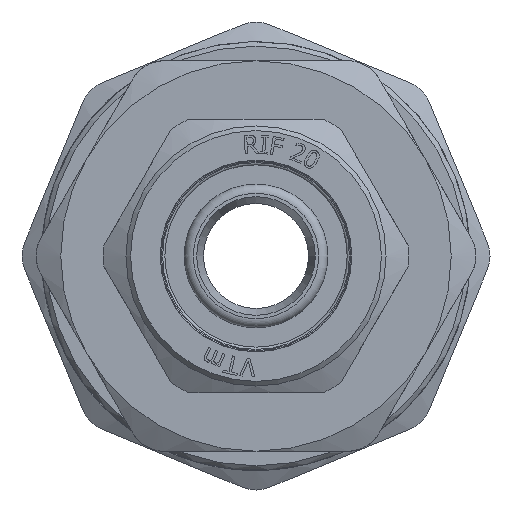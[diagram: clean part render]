
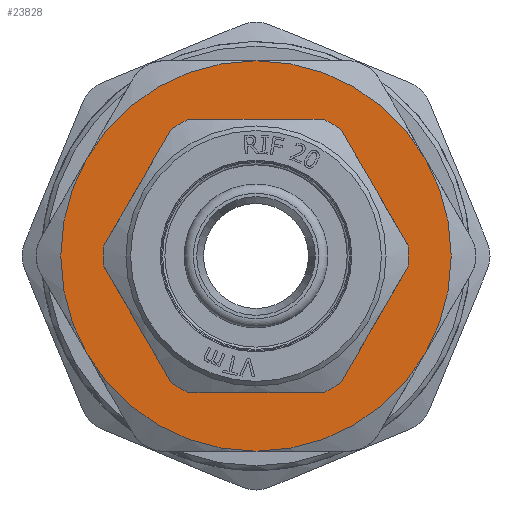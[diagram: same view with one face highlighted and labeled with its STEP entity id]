
A CAD part, left-side view. The second image highlights one B-rep face of the part: STEP entity #23828.
In plain terms, the highlighted planar face has unit normal (-1, 0, 0).
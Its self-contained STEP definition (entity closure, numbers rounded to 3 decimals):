
#479=PLANE('',#24975);
#1303=FACE_BOUND('',#3965,.T.);
#2572=FACE_OUTER_BOUND('',#3964,.T.);
#3964=EDGE_LOOP('',(#22230,#22231,#22232,#22233,#22234,#22235));
#3965=EDGE_LOOP('',(#22236,#22237));
#3989=CIRCLE('',#23872,13.2);
#3990=CIRCLE('',#23873,13.2);
#4046=CIRCLE('',#23971,21.4);
#4047=CIRCLE('',#23973,21.4);
#4048=CIRCLE('',#23975,21.4);
#4049=CIRCLE('',#23977,21.4);
#4050=CIRCLE('',#23979,21.4);
#4541=CIRCLE('',#24976,21.4);
#9052=VERTEX_POINT('',#28850);
#9053=VERTEX_POINT('',#28852);
#9473=VERTEX_POINT('',#32791);
#9481=VERTEX_POINT('',#32839);
#9495=VERTEX_POINT('',#32920);
#9498=VERTEX_POINT('',#32939);
#9506=VERTEX_POINT('',#32987);
#9513=VERTEX_POINT('',#33034);
#11508=EDGE_CURVE('',#9052,#9053,#3989,.T.);
#11509=EDGE_CURVE('',#9053,#9052,#3990,.T.);
#12017=EDGE_CURVE('',#9498,#9495,#4046,.T.);
#12018=EDGE_CURVE('',#9495,#9481,#4047,.T.);
#12019=EDGE_CURVE('',#9506,#9498,#4048,.T.);
#12020=EDGE_CURVE('',#9481,#9473,#4049,.T.);
#12021=EDGE_CURVE('',#9513,#9506,#4050,.T.);
#15101=EDGE_CURVE('',#9473,#9513,#4541,.T.);
#22230=ORIENTED_EDGE('',*,*,#12018,.T.);
#22231=ORIENTED_EDGE('',*,*,#12020,.T.);
#22232=ORIENTED_EDGE('',*,*,#15101,.T.);
#22233=ORIENTED_EDGE('',*,*,#12021,.T.);
#22234=ORIENTED_EDGE('',*,*,#12019,.T.);
#22235=ORIENTED_EDGE('',*,*,#12017,.T.);
#22236=ORIENTED_EDGE('',*,*,#11509,.F.);
#22237=ORIENTED_EDGE('',*,*,#11508,.F.);
#23828=ADVANCED_FACE('',(#2572,#1303),#479,.T.);
#23872=AXIS2_PLACEMENT_3D('',#28853,#25028,#25029);
#23873=AXIS2_PLACEMENT_3D('',#28854,#25030,#25031);
#23971=AXIS2_PLACEMENT_3D('',#33052,#25290,#25291);
#23973=AXIS2_PLACEMENT_3D('',#33054,#25294,#25295);
#23975=AXIS2_PLACEMENT_3D('',#33056,#25298,#25299);
#23977=AXIS2_PLACEMENT_3D('',#33058,#25302,#25303);
#23979=AXIS2_PLACEMENT_3D('',#33060,#25306,#25307);
#24975=AXIS2_PLACEMENT_3D('',#54728,#28698,#28699);
#24976=AXIS2_PLACEMENT_3D('',#54729,#28700,#28701);
#25028=DIRECTION('center_axis',(-1.,0.,0.));
#25029=DIRECTION('ref_axis',(0.,0.,1.));
#25030=DIRECTION('center_axis',(-1.,0.,0.));
#25031=DIRECTION('ref_axis',(0.,0.,1.));
#25290=DIRECTION('center_axis',(-1.,0.,0.));
#25291=DIRECTION('ref_axis',(0.,0.,1.));
#25294=DIRECTION('center_axis',(-1.,0.,0.));
#25295=DIRECTION('ref_axis',(0.,0.,1.));
#25298=DIRECTION('center_axis',(-1.,0.,0.));
#25299=DIRECTION('ref_axis',(0.,0.,1.));
#25302=DIRECTION('center_axis',(-1.,0.,0.));
#25303=DIRECTION('ref_axis',(0.,0.,1.));
#25306=DIRECTION('center_axis',(-1.,0.,0.));
#25307=DIRECTION('ref_axis',(0.,0.,1.));
#28698=DIRECTION('center_axis',(-1.,0.,0.));
#28699=DIRECTION('ref_axis',(0.,0.,1.));
#28700=DIRECTION('center_axis',(-1.,0.,0.));
#28701=DIRECTION('ref_axis',(0.,0.,1.));
#28850=CARTESIAN_POINT('',(-8.,13.2,0.));
#28852=CARTESIAN_POINT('',(-8.,-13.2,0.));
#28853=CARTESIAN_POINT('Origin',(-8.,0.,0.));
#28854=CARTESIAN_POINT('Origin',(-8.,0.,0.));
#32791=CARTESIAN_POINT('',(-8.,0.,21.4));
#32839=CARTESIAN_POINT('',(-8.,-18.533,10.7));
#32920=CARTESIAN_POINT('',(-8.,-18.533,-10.7));
#32939=CARTESIAN_POINT('',(-8.,0.,-21.4));
#32987=CARTESIAN_POINT('',(-8.,18.533,-10.7));
#33034=CARTESIAN_POINT('',(-8.,18.533,10.7));
#33052=CARTESIAN_POINT('Origin',(-8.,0.,0.));
#33054=CARTESIAN_POINT('Origin',(-8.,0.,0.));
#33056=CARTESIAN_POINT('Origin',(-8.,0.,0.));
#33058=CARTESIAN_POINT('Origin',(-8.,0.,0.));
#33060=CARTESIAN_POINT('Origin',(-8.,0.,0.));
#54728=CARTESIAN_POINT('Origin',(-8.,-13.2,0.));
#54729=CARTESIAN_POINT('Origin',(-8.,0.,0.));
